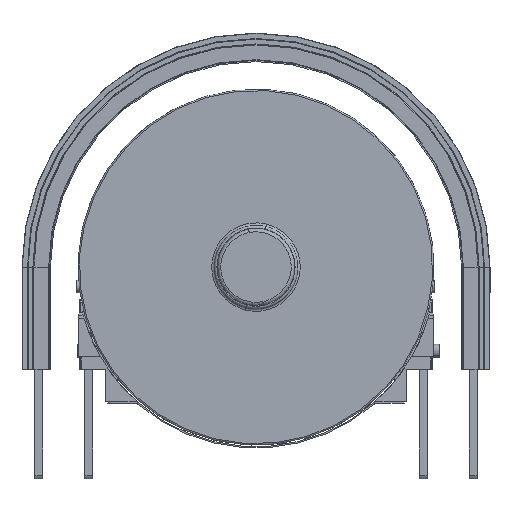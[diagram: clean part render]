
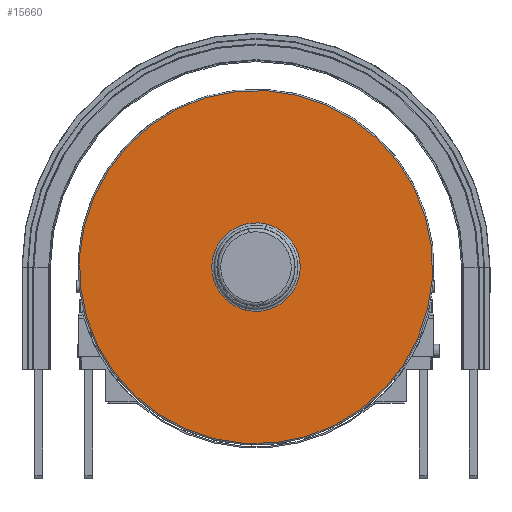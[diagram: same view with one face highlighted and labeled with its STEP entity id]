
A CAD part, front view. The second image highlights one B-rep face of the part: STEP entity #15660.
In plain terms, the highlighted planar face has unit normal (0, -1, 0) as drawn and (0, 0, 1) by its records, which use the part's own axes.
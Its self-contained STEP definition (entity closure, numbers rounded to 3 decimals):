
#3155 = EDGE_LOOP ( 'NONE', ( #23295, #23296 ) ) ;
#3156 = EDGE_LOOP ( 'NONE', ( #23293, #23294 ) ) ;
#4313 = CIRCLE ( 'NONE', #4333, 137.8 ) ;
#4333 = AXIS2_PLACEMENT_3D ( 'NONE', #29690, #29691, #29692 ) ;
#4338 = CIRCLE ( 'NONE', #4341, 34.5 ) ;
#4341 = AXIS2_PLACEMENT_3D ( 'NONE', #29702, #29703, #29704 ) ;
#8008 = EDGE_CURVE ( 'NONE', #31483, #24517, #36682, .T. ) ;
#8009 = EDGE_CURVE ( 'NONE', #24509, #24445, #36615, .T. ) ;
#14505 = FACE_OUTER_BOUND ( 'NONE', #3156, .T. ) ;
#14507 = DIRECTION ( 'NONE',  ( 0., 0., 1. ) ) ;
#14509 = CARTESIAN_POINT ( 'NONE',  ( 981.95, 0., 21.9 ) ) ;
#14510 = FACE_BOUND ( 'NONE', #3155, .T. ) ;
#14511 = PLANE ( 'NONE',  #15988 ) ;
#14513 = DIRECTION ( 'NONE',  ( 1., 0., 0. ) ) ;
#15660 = ADVANCED_FACE ( 'NONE', ( #14505, #14510 ), #14511, .T. ) ;
#15988 = AXIS2_PLACEMENT_3D ( 'NONE', #14509, #14507, #14513 ) ;
#21193 = EDGE_CURVE ( 'NONE', #24445, #24509, #4313, .T. ) ;
#21197 = EDGE_CURVE ( 'NONE', #24517, #31483, #4338, .T. ) ;
#23293 = ORIENTED_EDGE ( 'NONE', *, *, #8009, .T. ) ;
#23294 = ORIENTED_EDGE ( 'NONE', *, *, #21193, .T. ) ;
#23295 = ORIENTED_EDGE ( 'NONE', *, *, #8008, .T. ) ;
#23296 = ORIENTED_EDGE ( 'NONE', *, *, #21197, .T. ) ;
#24445 = VERTEX_POINT ( 'NONE', #26004 ) ;
#24509 = VERTEX_POINT ( 'NONE', #26068 ) ;
#24517 = VERTEX_POINT ( 'NONE', #26076 ) ;
#26004 = CARTESIAN_POINT ( 'NONE',  ( 895.8, -137.8, 21.9 ) ) ;
#26068 = CARTESIAN_POINT ( 'NONE',  ( 895.8, 137.8, 21.9 ) ) ;
#26076 = CARTESIAN_POINT ( 'NONE',  ( 930.3, 0., 21.9 ) ) ;
#26219 = CARTESIAN_POINT ( 'NONE',  ( 861.3, 0., 21.9 ) ) ;
#29690 = CARTESIAN_POINT ( 'NONE',  ( 895.8, 0., 21.9 ) ) ;
#29691 = DIRECTION ( 'NONE',  ( 0., 0., 1. ) ) ;
#29692 = DIRECTION ( 'NONE',  ( 0., 1., 0. ) ) ;
#29702 = CARTESIAN_POINT ( 'NONE',  ( 895.8, 0., 21.9 ) ) ;
#29703 = DIRECTION ( 'NONE',  ( 0., 0., -1. ) ) ;
#29704 = DIRECTION ( 'NONE',  ( -1., 0., 0. ) ) ;
#31483 = VERTEX_POINT ( 'NONE', #26219 ) ;
#36605 = AXIS2_PLACEMENT_3D ( 'NONE', #39687, #39688, #39689 ) ;
#36615 = CIRCLE ( 'NONE', #36678, 137.8 ) ;
#36678 = AXIS2_PLACEMENT_3D ( 'NONE', #39690, #39691, #39692 ) ;
#36682 = CIRCLE ( 'NONE', #36605, 34.5 ) ;
#39687 = CARTESIAN_POINT ( 'NONE',  ( 895.8, 0., 21.9 ) ) ;
#39688 = DIRECTION ( 'NONE',  ( 0., 0., -1. ) ) ;
#39689 = DIRECTION ( 'NONE',  ( -1., 0., 0. ) ) ;
#39690 = CARTESIAN_POINT ( 'NONE',  ( 895.8, 0., 21.9 ) ) ;
#39691 = DIRECTION ( 'NONE',  ( 0., 0., 1. ) ) ;
#39692 = DIRECTION ( 'NONE',  ( 0., 1., 0. ) ) ;
